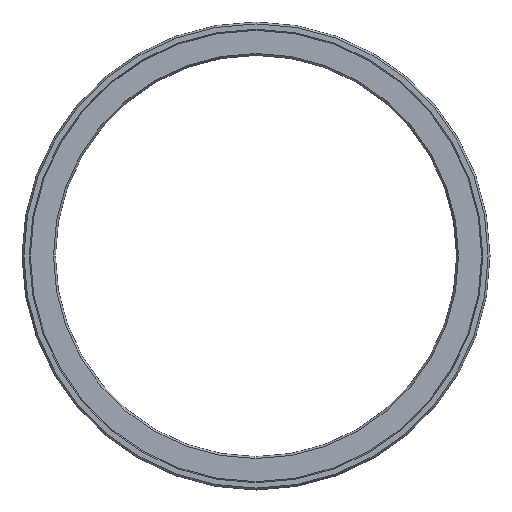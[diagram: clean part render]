
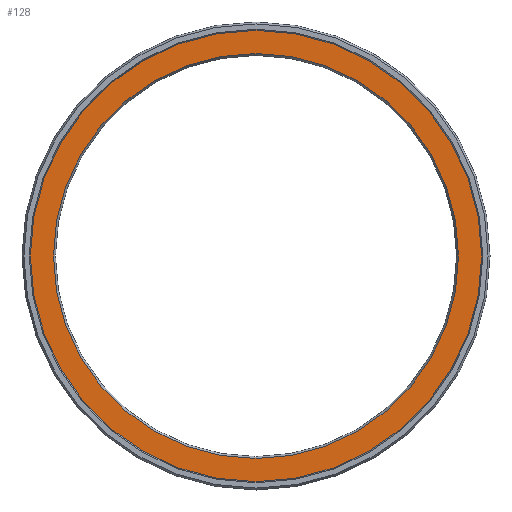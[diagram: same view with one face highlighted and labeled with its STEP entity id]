
A CAD part, left-side view. The second image highlights one B-rep face of the part: STEP entity #128.
In plain terms, the highlighted planar face has unit normal (-1, 0, 0).
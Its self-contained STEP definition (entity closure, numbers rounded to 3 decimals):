
#112=PLANE('',#329);
#128=ADVANCED_FACE('',(#163,#164),#112,.T.);
#163=FACE_BOUND('',#199,.T.);
#164=FACE_BOUND('',#200,.T.);
#199=EDGE_LOOP('',(#235));
#200=EDGE_LOOP('',(#236));
#235=ORIENTED_EDGE('',*,*,#276,.T.);
#236=ORIENTED_EDGE('',*,*,#275,.F.);
#257=VERTEX_POINT('',#454);
#258=VERTEX_POINT('',#457);
#275=EDGE_CURVE('',#257,#257,#293,.T.);
#276=EDGE_CURVE('',#258,#258,#294,.T.);
#293=CIRCLE('',#326,67.5);
#294=CIRCLE('',#328,60.577);
#326=AXIS2_PLACEMENT_3D('',#453,#394,#395);
#328=AXIS2_PLACEMENT_3D('',#456,#398,#399);
#329=AXIS2_PLACEMENT_3D('',#458,#400,#401);
#394=DIRECTION('',(1.,0.,0.));
#395=DIRECTION('',(0.,0.,-1.));
#398=DIRECTION('',(1.,0.,0.));
#399=DIRECTION('',(0.,0.,1.));
#400=DIRECTION('',(-1.,0.,0.));
#401=DIRECTION('',(0.,0.,1.));
#453=CARTESIAN_POINT('',(0.,0.,0.));
#454=CARTESIAN_POINT('',(0.,0.,-67.5));
#456=CARTESIAN_POINT('',(0.,0.,0.));
#457=CARTESIAN_POINT('',(0.,0.,60.577));
#458=CARTESIAN_POINT('',(0.,67.5,0.));
